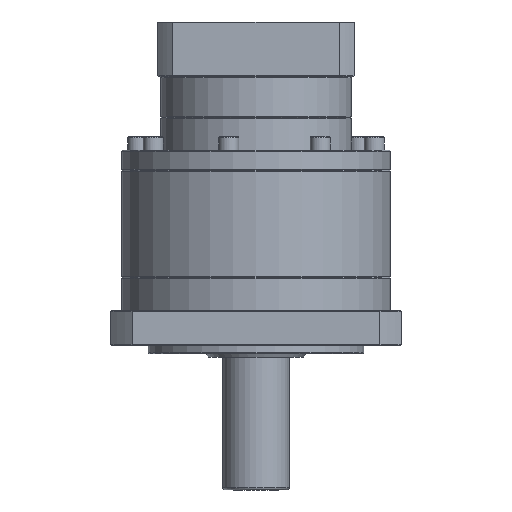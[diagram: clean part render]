
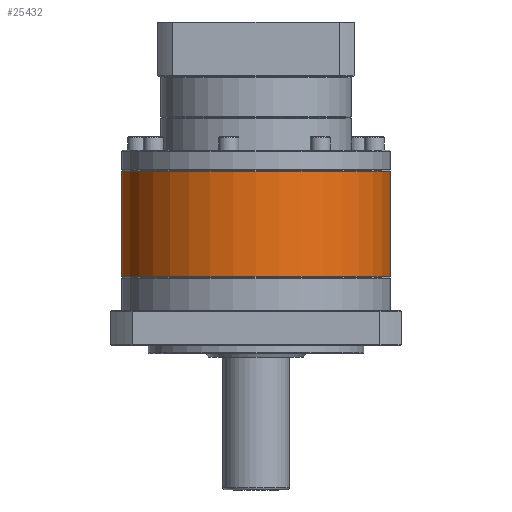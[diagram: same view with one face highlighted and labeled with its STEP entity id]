
A CAD part, front view. The second image highlights one B-rep face of the part: STEP entity #25432.
In plain terms, the highlighted cylindrical face has radius 81 mm (diameter 162 mm), a partial arc.
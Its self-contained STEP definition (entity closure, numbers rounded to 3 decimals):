
#2303 = CIRCLE ( 'NONE', #27110, 81. ) ;
#7310 = VECTOR ( 'NONE', #128383, 1000. ) ;
#8448 = EDGE_CURVE ( 'NONE', #43002, #34235, #63566, .T. ) ;
#10356 = DIRECTION ( 'NONE',  ( 0., 0., 1. ) ) ;
#10668 = DIRECTION ( 'NONE',  ( 0., 0., -1. ) ) ;
#25432 = ADVANCED_FACE ( 'NONE', ( #127846 ), #96705, .T. ) ;
#27110 = AXIS2_PLACEMENT_3D ( 'NONE', #66967, #10356, #65548 ) ;
#34235 = VERTEX_POINT ( 'NONE', #142441 ) ;
#43002 = VERTEX_POINT ( 'NONE', #90288 ) ;
#45092 = CIRCLE ( 'NONE', #140811, 81. ) ;
#57038 = EDGE_CURVE ( 'NONE', #43002, #72891, #45092, .T. ) ;
#58646 = AXIS2_PLACEMENT_3D ( 'NONE', #66819, #10668, #77371 ) ;
#63566 = LINE ( 'NONE', #90391, #127340 ) ;
#65548 = DIRECTION ( 'NONE',  ( -1., 0., 0. ) ) ;
#66819 = CARTESIAN_POINT ( 'NONE',  ( -13.418, -5.319, 304.6 ) ) ;
#66967 = CARTESIAN_POINT ( 'NONE',  ( -13.418, -5.319, 240.6 ) ) ;
#69331 = DIRECTION ( 'NONE',  ( 0., 0., -1. ) ) ;
#72891 = VERTEX_POINT ( 'NONE', #121945 ) ;
#76705 = EDGE_LOOP ( 'NONE', ( #119773, #91667, #135657, #84440 ) ) ;
#77371 = DIRECTION ( 'NONE',  ( -1., 0., 0. ) ) ;
#84440 = ORIENTED_EDGE ( 'NONE', *, *, #107007, .T. ) ;
#84744 = CARTESIAN_POINT ( 'NONE',  ( -13.418, -5.319, 304.1 ) ) ;
#90288 = CARTESIAN_POINT ( 'NONE',  ( 67.582, -5.319, 304.1 ) ) ;
#90391 = CARTESIAN_POINT ( 'NONE',  ( 67.582, -5.319, 304.6 ) ) ;
#91667 = ORIENTED_EDGE ( 'NONE', *, *, #57038, .T. ) ;
#94358 = DIRECTION ( 'NONE',  ( -1., 0., 0. ) ) ;
#94897 = LINE ( 'NONE', #128838, #7310 ) ;
#94980 = EDGE_CURVE ( 'NONE', #72891, #127521, #94897, .T. ) ;
#96260 = DIRECTION ( 'NONE',  ( 0., 0., -1. ) ) ;
#96705 = CYLINDRICAL_SURFACE ( 'NONE', #58646, 81. ) ;
#107007 = EDGE_CURVE ( 'NONE', #127521, #34235, #2303, .T. ) ;
#114347 = CARTESIAN_POINT ( 'NONE',  ( -94.418, -5.319, 240.6 ) ) ;
#119773 = ORIENTED_EDGE ( 'NONE', *, *, #8448, .F. ) ;
#121945 = CARTESIAN_POINT ( 'NONE',  ( -94.418, -5.319, 304.1 ) ) ;
#127340 = VECTOR ( 'NONE', #69331, 1000. ) ;
#127521 = VERTEX_POINT ( 'NONE', #114347 ) ;
#127846 = FACE_OUTER_BOUND ( 'NONE', #76705, .T. ) ;
#128383 = DIRECTION ( 'NONE',  ( 0., 0., -1. ) ) ;
#128838 = CARTESIAN_POINT ( 'NONE',  ( -94.418, -5.319, 304.6 ) ) ;
#135657 = ORIENTED_EDGE ( 'NONE', *, *, #94980, .T. ) ;
#140811 = AXIS2_PLACEMENT_3D ( 'NONE', #84744, #96260, #94358 ) ;
#142441 = CARTESIAN_POINT ( 'NONE',  ( 67.582, -5.319, 240.6 ) ) ;
